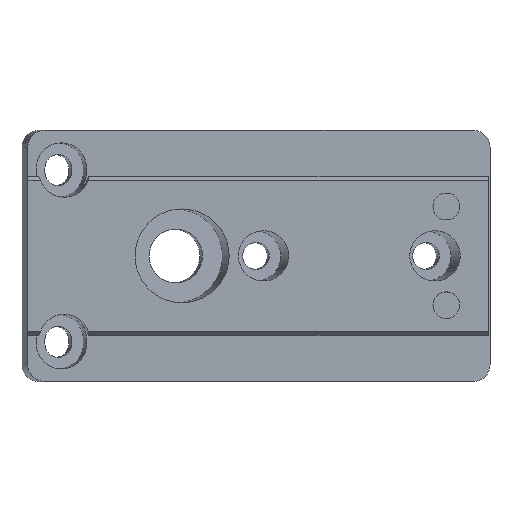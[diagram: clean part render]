
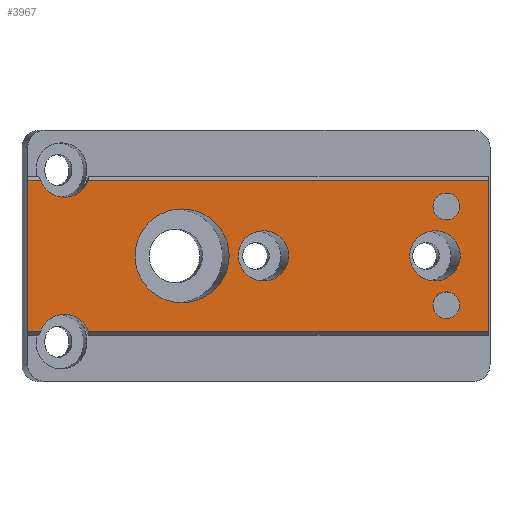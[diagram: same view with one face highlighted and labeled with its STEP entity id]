
A CAD part, top view. The second image highlights one B-rep face of the part: STEP entity #3967.
In plain terms, the highlighted planar face has unit normal (0, 0, 1).
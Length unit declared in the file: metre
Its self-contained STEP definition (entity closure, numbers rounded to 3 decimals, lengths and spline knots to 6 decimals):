
#138=ELLIPSE('',#4223,0.005621,0.0056);
#139=ELLIPSE('',#4224,0.003011,0.003);
#140=ELLIPSE('',#4225,0.003011,0.003);
#141=ELLIPSE('',#4228,0.003011,0.003);
#142=ELLIPSE('',#4229,0.003011,0.003);
#226=CIRCLE('',#4226,0.0016);
#227=CIRCLE('',#4227,0.0016);
#329=ORIENTED_EDGE('',*,*,#1527,.T.);
#330=ORIENTED_EDGE('',*,*,#1528,.T.);
#331=ORIENTED_EDGE('',*,*,#1529,.T.);
#332=ORIENTED_EDGE('',*,*,#1530,.T.);
#333=ORIENTED_EDGE('',*,*,#1531,.T.);
#334=ORIENTED_EDGE('',*,*,#1532,.F.);
#335=ORIENTED_EDGE('',*,*,#1533,.T.);
#336=ORIENTED_EDGE('',*,*,#1534,.F.);
#337=ORIENTED_EDGE('',*,*,#1535,.T.);
#338=ORIENTED_EDGE('',*,*,#1536,.F.);
#339=ORIENTED_EDGE('',*,*,#1537,.T.);
#340=ORIENTED_EDGE('',*,*,#1538,.T.);
#341=ORIENTED_EDGE('',*,*,#1539,.T.);
#1527=EDGE_CURVE('',#2126,#2126,#138,.T.);
#1528=EDGE_CURVE('',#2127,#2127,#139,.T.);
#1529=EDGE_CURVE('',#2128,#2128,#140,.T.);
#1530=EDGE_CURVE('',#2129,#2129,#226,.T.);
#1531=EDGE_CURVE('',#2130,#2130,#227,.T.);
#1532=EDGE_CURVE('',#2131,#2132,#141,.F.);
#1533=EDGE_CURVE('',#2131,#2133,#2511,.T.);
#1534=EDGE_CURVE('',#2134,#2133,#2512,.T.);
#1535=EDGE_CURVE('',#2134,#2135,#2513,.T.);
#1536=EDGE_CURVE('',#2136,#2135,#142,.F.);
#1537=EDGE_CURVE('',#2136,#2137,#2514,.T.);
#1538=EDGE_CURVE('',#2137,#2138,#2515,.T.);
#1539=EDGE_CURVE('',#2138,#2132,#2516,.T.);
#2126=VERTEX_POINT('',#5556);
#2127=VERTEX_POINT('',#5558);
#2128=VERTEX_POINT('',#5560);
#2129=VERTEX_POINT('',#5562);
#2130=VERTEX_POINT('',#5564);
#2131=VERTEX_POINT('',#5566);
#2132=VERTEX_POINT('',#5567);
#2133=VERTEX_POINT('',#5569);
#2134=VERTEX_POINT('',#5571);
#2135=VERTEX_POINT('',#5573);
#2136=VERTEX_POINT('',#5575);
#2137=VERTEX_POINT('',#5577);
#2138=VERTEX_POINT('',#5579);
#2511=LINE('',#5568,#2922);
#2512=LINE('',#5570,#2923);
#2513=LINE('',#5572,#2924);
#2514=LINE('',#5576,#2925);
#2515=LINE('',#5578,#2926);
#2516=LINE('',#5580,#2927);
#2922=VECTOR('',#4567,1.);
#2923=VECTOR('',#4568,1.);
#2924=VECTOR('',#4569,1.);
#2925=VECTOR('',#4572,1.);
#2926=VECTOR('',#4573,1.);
#2927=VECTOR('',#4574,1.);
#3320=EDGE_LOOP('',(#329));
#3321=EDGE_LOOP('',(#330));
#3322=EDGE_LOOP('',(#331));
#3323=EDGE_LOOP('',(#332));
#3324=EDGE_LOOP('',(#333));
#3325=EDGE_LOOP('',(#334,#335,#336,#337,#338,#339,#340,#341));
#3579=FACE_BOUND('',#3320,.T.);
#3580=FACE_BOUND('',#3321,.T.);
#3581=FACE_BOUND('',#3322,.T.);
#3582=FACE_BOUND('',#3323,.T.);
#3583=FACE_BOUND('',#3324,.T.);
#3584=FACE_BOUND('',#3325,.T.);
#3830=PLANE('',#4222);
#3967=ADVANCED_FACE('',(#3579,#3580,#3581,#3582,#3583,#3584),#3830,.F.);
#4222=AXIS2_PLACEMENT_3D('',#5554,#4553,#4554);
#4223=AXIS2_PLACEMENT_3D('',#5555,#4555,#4556);
#4224=AXIS2_PLACEMENT_3D('',#5557,#4557,#4558);
#4225=AXIS2_PLACEMENT_3D('',#5559,#4559,#4560);
#4226=AXIS2_PLACEMENT_3D('',#5561,#4561,#4562);
#4227=AXIS2_PLACEMENT_3D('',#5563,#4563,#4564);
#4228=AXIS2_PLACEMENT_3D('',#5565,#4565,#4566);
#4229=AXIS2_PLACEMENT_3D('',#5574,#4570,#4571);
#4553=DIRECTION('',(0.,0.,-1.));
#4554=DIRECTION('',(-1.,0.,0.));
#4555=DIRECTION('',(0.,0.,-1.));
#4556=DIRECTION('',(-1.,0.,0.));
#4557=DIRECTION('',(0.,0.,-1.));
#4558=DIRECTION('',(-1.,0.,0.));
#4559=DIRECTION('',(0.,0.,-1.));
#4560=DIRECTION('',(-1.,0.,0.));
#4561=DIRECTION('',(0.,0.,-1.));
#4562=DIRECTION('',(-1.,0.,0.));
#4563=DIRECTION('',(0.,0.,-1.));
#4564=DIRECTION('',(-1.,0.,0.));
#4565=DIRECTION('',(0.,0.,-1.));
#4566=DIRECTION('',(-1.,0.,0.));
#4567=DIRECTION('',(1.,0.,0.));
#4568=DIRECTION('',(0.,-1.,0.));
#4569=DIRECTION('',(-1.,0.,0.));
#4570=DIRECTION('',(0.,0.,-1.));
#4571=DIRECTION('',(-1.,0.,0.));
#4572=DIRECTION('',(-1.,0.,0.));
#4573=DIRECTION('',(0.,-1.,0.));
#4574=DIRECTION('',(1.,0.,0.));
#5554=CARTESIAN_POINT('',(0.055,0.,0.0041));
#5555=CARTESIAN_POINT('',(0.018427,0.,0.0041));
#5556=CARTESIAN_POINT('',(0.012806,0.,0.0041));
#5557=CARTESIAN_POINT('',(0.048642,0.,0.0041));
#5558=CARTESIAN_POINT('',(0.045631,0.,0.0041));
#5559=CARTESIAN_POINT('',(0.028165,0.,0.0041));
#5560=CARTESIAN_POINT('',(0.025153,0.,0.0041));
#5561=CARTESIAN_POINT('',(0.05,0.0059,0.0041));
#5562=CARTESIAN_POINT('',(0.0484,0.0059,0.0041));
#5563=CARTESIAN_POINT('',(0.05,-0.0059,0.0041));
#5564=CARTESIAN_POINT('',(0.0484,-0.0059,0.0041));
#5565=CARTESIAN_POINT('',(0.004374,-0.01,0.0041));
#5566=CARTESIAN_POINT('',(0.007215,-0.009004,0.0041));
#5567=CARTESIAN_POINT('',(0.001533,-0.009004,0.0041));
#5568=CARTESIAN_POINT('',(0.055,-0.009004,0.0041));
#5569=CARTESIAN_POINT('',(0.055,-0.009004,0.0041));
#5570=CARTESIAN_POINT('',(0.055,0.,0.0041));
#5571=CARTESIAN_POINT('',(0.055,0.009004,0.0041));
#5572=CARTESIAN_POINT('',(0.,0.009004,0.0041));
#5573=CARTESIAN_POINT('',(0.007215,0.009004,0.0041));
#5574=CARTESIAN_POINT('',(0.004374,0.01,0.0041));
#5575=CARTESIAN_POINT('',(0.001533,0.009004,0.0041));
#5576=CARTESIAN_POINT('',(0.,0.009004,0.0041));
#5577=CARTESIAN_POINT('',(0.,0.009004,0.0041));
#5578=CARTESIAN_POINT('',(0.,0.,0.0041));
#5579=CARTESIAN_POINT('',(0.,-0.009004,0.0041));
#5580=CARTESIAN_POINT('',(0.055,-0.009004,0.0041));
